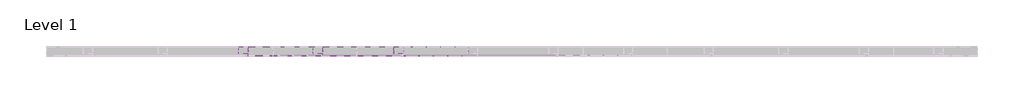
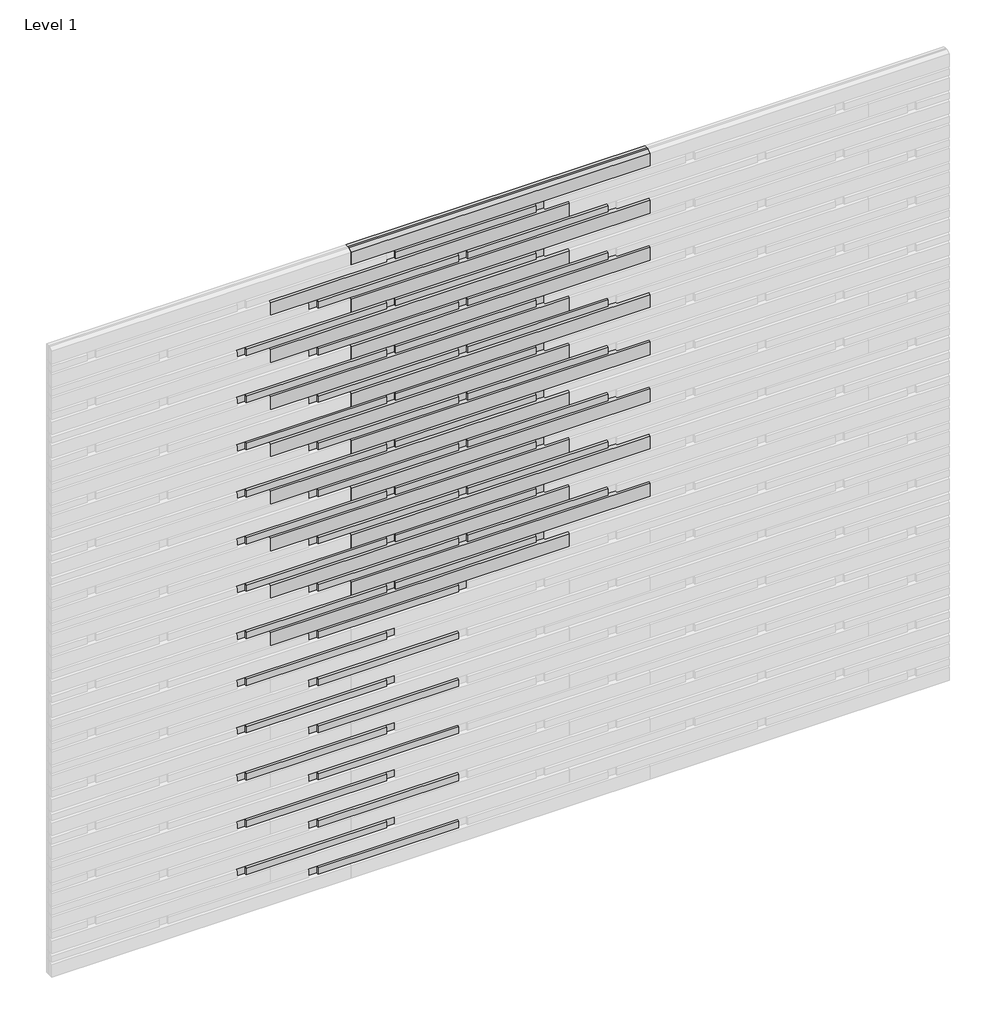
# One storey, part 2 of 4: 109 proxies.
"""IFC4 building model written with IfcOpenShell, lengths in millimetres."""

from ifc_helpers import new_model, si_unit, origin, place, context, project, spatial, transform, mapped, element, save
from components import specialty_equipment_50deff0f, specialty_equipment_1c03680a, specialty_equipment_1ede2179

model = new_model("IFC4")

# Units and contexts
model_context = context("Model", 3, world=origin())
ifc_project = project(units=[si_unit("LENGTHUNIT", "METRE", prefix="MILLI")], contexts=[model_context])

# Site, building, storey
site = spatial("IfcSite", under=ifc_project)
building = spatial("IfcBuilding", under=site)
storey = spatial("IfcBuildingStorey", under=building, Name="Level 1", Elevation=0.0)

# Proxies
placement = place(None, origin())
specialty_equipment_shape = specialty_equipment_50deff0f(model_context)
element("IfcBuildingElementProxy", 1, Name="Spinneybeck_ARO Plank 7 : A - 5’-6”  x 3 1/2” x 1 1/4”", ObjectType="Spinneybeck_ARO Plank 7 : A - 5’-6”  x 3 1/2” x 1 1/4”", at=placement, inside=storey, context=model_context, shape_type="MappedRepresentation", body=[
    mapped(specialty_equipment_shape, transform((-3533.3177571, 2593.3070483, 3755.55), x_axis=(1.0, 0.0, 0.0), y_axis=(0.0, 0.0, 1.0), z_axis=(0.0, -1.0, 0.0))),
])
element("IfcBuildingElementProxy", 2, Name="Spinneybeck_ARO Plank 7 : A - 5’-6”  x 3 1/2” x 1 1/4”", ObjectType="Spinneybeck_ARO Plank 7 : A - 5’-6”  x 3 1/2” x 1 1/4”", at=placement, inside=storey, context=model_context, shape_type="MappedRepresentation", body=[
    mapped(specialty_equipment_shape, transform((-3985.8025517, 2593.3070483, 3615.85), x_axis=(1.0, 0.0, 0.0), y_axis=(0.0, 0.0, 1.0), z_axis=(0.0, -1.0, 0.0))),
])
element("IfcBuildingElementProxy", 3, Name="Spinneybeck_ARO Plank 7 : A - 5’-6”  x 3 1/2” x 1 1/4”", ObjectType="Spinneybeck_ARO Plank 7 : A - 5’-6”  x 3 1/2” x 1 1/4”", at=placement, inside=storey, context=model_context, shape_type="MappedRepresentation", body=[
    mapped(specialty_equipment_shape, transform((-3533.3177571, 2593.3070483, 3476.15), x_axis=(1.0, 0.0, 0.0), y_axis=(0.0, 0.0, 1.0), z_axis=(0.0, -1.0, 0.0))),
])
element("IfcBuildingElementProxy", 4, Name="Spinneybeck_ARO Plank 7 : A - 5’-6”  x 3 1/2” x 1 1/4”", ObjectType="Spinneybeck_ARO Plank 7 : A - 5’-6”  x 3 1/2” x 1 1/4”", at=placement, inside=storey, context=model_context, shape_type="MappedRepresentation", body=[
    mapped(specialty_equipment_shape, transform((-3985.8025517, 2593.3070483, 3336.45), x_axis=(1.0, 0.0, 0.0), y_axis=(0.0, 0.0, 1.0), z_axis=(0.0, -1.0, 0.0))),
])
element("IfcBuildingElementProxy", 5, Name="Spinneybeck_ARO Plank 7 : A - 5’-6”  x 3 1/2” x 1 1/4”", ObjectType="Spinneybeck_ARO Plank 7 : A - 5’-6”  x 3 1/2” x 1 1/4”", at=placement, inside=storey, context=model_context, shape_type="MappedRepresentation", body=[
    mapped(specialty_equipment_shape, transform((-3533.3177571, 2593.3070483, 3196.75), x_axis=(1.0, 0.0, 0.0), y_axis=(0.0, 0.0, 1.0), z_axis=(0.0, -1.0, 0.0))),
])
element("IfcBuildingElementProxy", 6, Name="Spinneybeck_ARO Plank 7 : A - 5’-6”  x 3 1/2” x 1 1/4”", ObjectType="Spinneybeck_ARO Plank 7 : A - 5’-6”  x 3 1/2” x 1 1/4”", at=placement, inside=storey, context=model_context, shape_type="MappedRepresentation", body=[
    mapped(specialty_equipment_shape, transform((-3985.8025517, 2593.3070483, 3057.05), x_axis=(1.0, 0.0, 0.0), y_axis=(0.0, 0.0, 1.0), z_axis=(0.0, -1.0, 0.0))),
])
element("IfcBuildingElementProxy", 7, Name="Spinneybeck_ARO Plank 7 : A - 5’-6”  x 3 1/2” x 1 1/4”", ObjectType="Spinneybeck_ARO Plank 7 : A - 5’-6”  x 3 1/2” x 1 1/4”", at=placement, inside=storey, context=model_context, shape_type="MappedRepresentation", body=[
    mapped(specialty_equipment_shape, transform((-3533.3177571, 2593.3070483, 2917.35), x_axis=(1.0, 0.0, 0.0), y_axis=(0.0, 0.0, 1.0), z_axis=(0.0, -1.0, 0.0))),
])
element("IfcBuildingElementProxy", 8, Name="Spinneybeck_ARO Plank 7 : A - 5’-6”  x 3 1/2” x 1 1/4”", ObjectType="Spinneybeck_ARO Plank 7 : A - 5’-6”  x 3 1/2” x 1 1/4”", at=placement, inside=storey, context=model_context, shape_type="MappedRepresentation", body=[
    mapped(specialty_equipment_shape, transform((-3985.8025517, 2593.3070483, 2777.65), x_axis=(1.0, 0.0, 0.0), y_axis=(0.0, 0.0, 1.0), z_axis=(0.0, -1.0, 0.0))),
])
element("IfcBuildingElementProxy", 9, Name="Spinneybeck_ARO Plank 7 : A - 5’-6”  x 3 1/2” x 1 1/4”", ObjectType="Spinneybeck_ARO Plank 7 : A - 5’-6”  x 3 1/2” x 1 1/4”", at=placement, inside=storey, context=model_context, shape_type="MappedRepresentation", body=[
    mapped(specialty_equipment_shape, transform((-3533.3177571, 2593.3070483, 2637.95), x_axis=(1.0, 0.0, 0.0), y_axis=(0.0, 0.0, 1.0), z_axis=(0.0, -1.0, 0.0))),
])
element("IfcBuildingElementProxy", 10, Name="Spinneybeck_ARO Plank 7 : A - 5’-6”  x 3 1/2” x 1 1/4”", ObjectType="Spinneybeck_ARO Plank 7 : A - 5’-6”  x 3 1/2” x 1 1/4”", at=placement, inside=storey, context=model_context, shape_type="MappedRepresentation", body=[
    mapped(specialty_equipment_shape, transform((-3985.8025517, 2593.3070483, 2498.25), x_axis=(1.0, 0.0, 0.0), y_axis=(0.0, 0.0, 1.0), z_axis=(0.0, -1.0, 0.0))),
])
element("IfcBuildingElementProxy", 11, Name="Spinneybeck_ARO Plank 7 : A - 5’-6”  x 3 1/2” x 1 1/4”", ObjectType="Spinneybeck_ARO Plank 7 : A - 5’-6”  x 3 1/2” x 1 1/4”", at=placement, inside=storey, context=model_context, shape_type="MappedRepresentation", body=[
    mapped(specialty_equipment_shape, transform((-3533.3177571, 2593.3070483, 2358.55), x_axis=(1.0, 0.0, 0.0), y_axis=(0.0, 0.0, 1.0), z_axis=(0.0, -1.0, 0.0))),
])
element("IfcBuildingElementProxy", 12, Name="Spinneybeck_ARO Plank 7 : A - 5’-6”  x 3 1/2” x 1 1/4”", ObjectType="Spinneybeck_ARO Plank 7 : A - 5’-6”  x 3 1/2” x 1 1/4”", at=placement, inside=storey, context=model_context, shape_type="MappedRepresentation", body=[
    mapped(specialty_equipment_shape, transform((-3985.8025517, 2593.3070483, 2218.85), x_axis=(1.0, 0.0, 0.0), y_axis=(0.0, 0.0, 1.0), z_axis=(0.0, -1.0, 0.0))),
])
element("IfcBuildingElementProxy", 13, Name="Spinneybeck_ARO Plank 7 : A - 5’-6”  x 3 1/2” x 1 1/4”", ObjectType="Spinneybeck_ARO Plank 7 : A - 5’-6”  x 3 1/2” x 1 1/4”", at=placement, inside=storey, context=model_context, shape_type="MappedRepresentation", body=[
    mapped(specialty_equipment_shape, transform((-3533.3177571, 2593.3070483, 2079.15), x_axis=(1.0, 0.0, 0.0), y_axis=(0.0, 0.0, 1.0), z_axis=(0.0, -1.0, 0.0))),
])
element("IfcBuildingElementProxy", 14, Name="Spinneybeck_ARO Plank 7 : A - 5’-6”  x 3 1/2” x 1 1/4”", ObjectType="Spinneybeck_ARO Plank 7 : A - 5’-6”  x 3 1/2” x 1 1/4”", at=placement, inside=storey, context=model_context, shape_type="MappedRepresentation", body=[
    mapped(specialty_equipment_shape, transform((-3985.8025517, 2593.3070483, 1939.45), x_axis=(1.0, 0.0, 0.0), y_axis=(0.0, 0.0, 1.0), z_axis=(0.0, -1.0, 0.0))),
])
element("IfcBuildingElementProxy", 15, Name="Spinneybeck_ARO Plank 7 : A - 5’-6”  x 3 1/2” x 1 1/4”", ObjectType="Spinneybeck_ARO Plank 7 : A - 5’-6”  x 3 1/2” x 1 1/4”", at=placement, inside=storey, context=model_context, shape_type="MappedRepresentation", body=[
    mapped(specialty_equipment_shape, transform((-3533.3177571, 2593.3070483, 1799.75), x_axis=(1.0, 0.0, 0.0), y_axis=(0.0, 0.0, 1.0), z_axis=(0.0, -1.0, 0.0))),
])
element("IfcBuildingElementProxy", 16, Name="Spinneybeck_ARO Plank 7 : A - 5’-6”  x 3 1/2” x 1 1/4”", ObjectType="Spinneybeck_ARO Plank 7 : A - 5’-6”  x 3 1/2” x 1 1/4”", at=placement, inside=storey, context=model_context, shape_type="MappedRepresentation", body=[
    mapped(specialty_equipment_shape, transform((-3985.8025517, 2593.3070483, 1660.05), x_axis=(1.0, 0.0, 0.0), y_axis=(0.0, 0.0, 1.0), z_axis=(0.0, -1.0, 0.0))),
])
specialty_equipment_2_shape = specialty_equipment_1c03680a(model_context)
element("IfcBuildingElementProxy", 17, Name="Spinneybeck_ARO Plank 7 : B - 2’-7” x 2” x 1 1/4”", ObjectType="Spinneybeck_ARO Plank 7 : B - 2’-7” x 2” x 1 1/4”", at=placement, inside=storey, context=model_context, shape_type="MappedRepresentation", body=[
    mapped(specialty_equipment_2_shape, transform((-3727.6591593, 2593.3070483, 3685.7), x_axis=(1.0, 0.0, 0.0), y_axis=(0.0, 0.0, 1.0), z_axis=(0.0, -1.0, 0.0))),
])
element("IfcBuildingElementProxy", 18, Name="Spinneybeck_ARO Plank 7 : B - 2’-7” x 2” x 1 1/4”", ObjectType="Spinneybeck_ARO Plank 7 : B - 2’-7” x 2” x 1 1/4”", at=placement, inside=storey, context=model_context, shape_type="MappedRepresentation", body=[
    mapped(specialty_equipment_2_shape, transform((-4162.8252102, 2593.3070483, 3546.0), x_axis=(1.0, 0.0, 0.0), y_axis=(0.0, 0.0, 1.0), z_axis=(0.0, -1.0, 0.0))),
])
element("IfcBuildingElementProxy", 19, Name="Spinneybeck_ARO Plank 7 : B - 2’-7” x 2” x 1 1/4”", ObjectType="Spinneybeck_ARO Plank 7 : B - 2’-7” x 2” x 1 1/4”", at=placement, inside=storey, context=model_context, shape_type="MappedRepresentation", body=[
    mapped(specialty_equipment_2_shape, transform((-3324.6252102, 2593.3070483, 3546.0), x_axis=(1.0, 0.0, 0.0), y_axis=(0.0, 0.0, 1.0), z_axis=(0.0, -1.0, 0.0))),
])
element("IfcBuildingElementProxy", 20, Name="Spinneybeck_ARO Plank 7 : B - 2’-7” x 2” x 1 1/4”", ObjectType="Spinneybeck_ARO Plank 7 : B - 2’-7” x 2” x 1 1/4”", at=placement, inside=storey, context=model_context, shape_type="MappedRepresentation", body=[
    mapped(specialty_equipment_2_shape, transform((-4565.8591593, 2593.3070483, 3406.3), x_axis=(1.0, 0.0, 0.0), y_axis=(0.0, 0.0, 1.0), z_axis=(0.0, -1.0, 0.0))),
])
element("IfcBuildingElementProxy", 21, Name="Spinneybeck_ARO Plank 7 : B - 2’-7” x 2” x 1 1/4”", ObjectType="Spinneybeck_ARO Plank 7 : B - 2’-7” x 2” x 1 1/4”", at=placement, inside=storey, context=model_context, shape_type="MappedRepresentation", body=[
    mapped(specialty_equipment_2_shape, transform((-3727.6591593, 2593.3070483, 3406.3), x_axis=(1.0, 0.0, 0.0), y_axis=(0.0, 0.0, 1.0), z_axis=(0.0, -1.0, 0.0))),
])
element("IfcBuildingElementProxy", 22, Name="Spinneybeck_ARO Plank 7 : B - 2’-7” x 2” x 1 1/4”", ObjectType="Spinneybeck_ARO Plank 7 : B - 2’-7” x 2” x 1 1/4”", at=placement, inside=storey, context=model_context, shape_type="MappedRepresentation", body=[
    mapped(specialty_equipment_2_shape, transform((-4162.8252102, 2593.3070483, 3266.6), x_axis=(1.0, 0.0, 0.0), y_axis=(0.0, 0.0, 1.0), z_axis=(0.0, -1.0, 0.0))),
])
element("IfcBuildingElementProxy", 23, Name="Spinneybeck_ARO Plank 7 : B - 2’-7” x 2” x 1 1/4”", ObjectType="Spinneybeck_ARO Plank 7 : B - 2’-7” x 2” x 1 1/4”", at=placement, inside=storey, context=model_context, shape_type="MappedRepresentation", body=[
    mapped(specialty_equipment_2_shape, transform((-3324.6252102, 2593.3070483, 3266.6), x_axis=(1.0, 0.0, 0.0), y_axis=(0.0, 0.0, 1.0), z_axis=(0.0, -1.0, 0.0))),
])
element("IfcBuildingElementProxy", 24, Name="Spinneybeck_ARO Plank 7 : B - 2’-7” x 2” x 1 1/4”", ObjectType="Spinneybeck_ARO Plank 7 : B - 2’-7” x 2” x 1 1/4”", at=placement, inside=storey, context=model_context, shape_type="MappedRepresentation", body=[
    mapped(specialty_equipment_2_shape, transform((-4565.8591593, 2593.3070483, 3126.9), x_axis=(1.0, 0.0, 0.0), y_axis=(0.0, 0.0, 1.0), z_axis=(0.0, -1.0, 0.0))),
])
element("IfcBuildingElementProxy", 25, Name="Spinneybeck_ARO Plank 7 : B - 2’-7” x 2” x 1 1/4”", ObjectType="Spinneybeck_ARO Plank 7 : B - 2’-7” x 2” x 1 1/4”", at=placement, inside=storey, context=model_context, shape_type="MappedRepresentation", body=[
    mapped(specialty_equipment_2_shape, transform((-3727.6591593, 2593.3070483, 3126.9), x_axis=(1.0, 0.0, 0.0), y_axis=(0.0, 0.0, 1.0), z_axis=(0.0, -1.0, 0.0))),
])
element("IfcBuildingElementProxy", 26, Name="Spinneybeck_ARO Plank 7 : B - 2’-7” x 2” x 1 1/4”", ObjectType="Spinneybeck_ARO Plank 7 : B - 2’-7” x 2” x 1 1/4”", at=placement, inside=storey, context=model_context, shape_type="MappedRepresentation", body=[
    mapped(specialty_equipment_2_shape, transform((-4162.8252102, 2593.3070483, 2987.2), x_axis=(1.0, 0.0, 0.0), y_axis=(0.0, 0.0, 1.0), z_axis=(0.0, -1.0, 0.0))),
])
element("IfcBuildingElementProxy", 27, Name="Spinneybeck_ARO Plank 7 : B - 2’-7” x 2” x 1 1/4”", ObjectType="Spinneybeck_ARO Plank 7 : B - 2’-7” x 2” x 1 1/4”", at=placement, inside=storey, context=model_context, shape_type="MappedRepresentation", body=[
    mapped(specialty_equipment_2_shape, transform((-3324.6252102, 2593.3070483, 2987.2), x_axis=(1.0, 0.0, 0.0), y_axis=(0.0, 0.0, 1.0), z_axis=(0.0, -1.0, 0.0))),
])
element("IfcBuildingElementProxy", 28, Name="Spinneybeck_ARO Plank 7 : B - 2’-7” x 2” x 1 1/4”", ObjectType="Spinneybeck_ARO Plank 7 : B - 2’-7” x 2” x 1 1/4”", at=placement, inside=storey, context=model_context, shape_type="MappedRepresentation", body=[
    mapped(specialty_equipment_2_shape, transform((-4565.8591593, 2593.3070483, 2847.5), x_axis=(1.0, 0.0, 0.0), y_axis=(0.0, 0.0, 1.0), z_axis=(0.0, -1.0, 0.0))),
])
element("IfcBuildingElementProxy", 29, Name="Spinneybeck_ARO Plank 7 : B - 2’-7” x 2” x 1 1/4”", ObjectType="Spinneybeck_ARO Plank 7 : B - 2’-7” x 2” x 1 1/4”", at=placement, inside=storey, context=model_context, shape_type="MappedRepresentation", body=[
    mapped(specialty_equipment_2_shape, transform((-3727.6591593, 2593.3070483, 2847.5), x_axis=(1.0, 0.0, 0.0), y_axis=(0.0, 0.0, 1.0), z_axis=(0.0, -1.0, 0.0))),
])
element("IfcBuildingElementProxy", 30, Name="Spinneybeck_ARO Plank 7 : B - 2’-7” x 2” x 1 1/4”", ObjectType="Spinneybeck_ARO Plank 7 : B - 2’-7” x 2” x 1 1/4”", at=placement, inside=storey, context=model_context, shape_type="MappedRepresentation", body=[
    mapped(specialty_equipment_2_shape, transform((-4162.8252102, 2593.3070483, 2707.8), x_axis=(1.0, 0.0, 0.0), y_axis=(0.0, 0.0, 1.0), z_axis=(0.0, -1.0, 0.0))),
])
element("IfcBuildingElementProxy", 31, Name="Spinneybeck_ARO Plank 7 : B - 2’-7” x 2” x 1 1/4”", ObjectType="Spinneybeck_ARO Plank 7 : B - 2’-7” x 2” x 1 1/4”", at=placement, inside=storey, context=model_context, shape_type="MappedRepresentation", body=[
    mapped(specialty_equipment_2_shape, transform((-3324.6252102, 2593.3070483, 2707.8), x_axis=(1.0, 0.0, 0.0), y_axis=(0.0, 0.0, 1.0), z_axis=(0.0, -1.0, 0.0))),
])
element("IfcBuildingElementProxy", 32, Name="Spinneybeck_ARO Plank 7 : B - 2’-7” x 2” x 1 1/4”", ObjectType="Spinneybeck_ARO Plank 7 : B - 2’-7” x 2” x 1 1/4”", at=placement, inside=storey, context=model_context, shape_type="MappedRepresentation", body=[
    mapped(specialty_equipment_2_shape, transform((-4565.8591593, 2593.3070483, 2568.1), x_axis=(1.0, 0.0, 0.0), y_axis=(0.0, 0.0, 1.0), z_axis=(0.0, -1.0, 0.0))),
])
element("IfcBuildingElementProxy", 33, Name="Spinneybeck_ARO Plank 7 : B - 2’-7” x 2” x 1 1/4”", ObjectType="Spinneybeck_ARO Plank 7 : B - 2’-7” x 2” x 1 1/4”", at=placement, inside=storey, context=model_context, shape_type="MappedRepresentation", body=[
    mapped(specialty_equipment_2_shape, transform((-3727.6591593, 2593.3070483, 2568.1), x_axis=(1.0, 0.0, 0.0), y_axis=(0.0, 0.0, 1.0), z_axis=(0.0, -1.0, 0.0))),
])
element("IfcBuildingElementProxy", 34, Name="Spinneybeck_ARO Plank 7 : B - 2’-7” x 2” x 1 1/4”", ObjectType="Spinneybeck_ARO Plank 7 : B - 2’-7” x 2” x 1 1/4”", at=placement, inside=storey, context=model_context, shape_type="MappedRepresentation", body=[
    mapped(specialty_equipment_2_shape, transform((-4162.8252102, 2593.3070483, 2428.4), x_axis=(1.0, 0.0, 0.0), y_axis=(0.0, 0.0, 1.0), z_axis=(0.0, -1.0, 0.0))),
])
element("IfcBuildingElementProxy", 35, Name="Spinneybeck_ARO Plank 7 : B - 2’-7” x 2” x 1 1/4”", ObjectType="Spinneybeck_ARO Plank 7 : B - 2’-7” x 2” x 1 1/4”", at=placement, inside=storey, context=model_context, shape_type="MappedRepresentation", body=[
    mapped(specialty_equipment_2_shape, transform((-3324.6252102, 2593.3070483, 2428.4), x_axis=(1.0, 0.0, 0.0), y_axis=(0.0, 0.0, 1.0), z_axis=(0.0, -1.0, 0.0))),
])
element("IfcBuildingElementProxy", 36, Name="Spinneybeck_ARO Plank 7 : B - 2’-7” x 2” x 1 1/4”", ObjectType="Spinneybeck_ARO Plank 7 : B - 2’-7” x 2” x 1 1/4”", at=placement, inside=storey, context=model_context, shape_type="MappedRepresentation", body=[
    mapped(specialty_equipment_2_shape, transform((-4565.8591593, 2593.3070483, 2288.7), x_axis=(1.0, 0.0, 0.0), y_axis=(0.0, 0.0, 1.0), z_axis=(0.0, -1.0, 0.0))),
])
element("IfcBuildingElementProxy", 37, Name="Spinneybeck_ARO Plank 7 : B - 2’-7” x 2” x 1 1/4”", ObjectType="Spinneybeck_ARO Plank 7 : B - 2’-7” x 2” x 1 1/4”", at=placement, inside=storey, context=model_context, shape_type="MappedRepresentation", body=[
    mapped(specialty_equipment_2_shape, transform((-3727.6591593, 2593.3070483, 2288.7), x_axis=(1.0, 0.0, 0.0), y_axis=(0.0, 0.0, 1.0), z_axis=(0.0, -1.0, 0.0))),
])
element("IfcBuildingElementProxy", 38, Name="Spinneybeck_ARO Plank 7 : B - 2’-7” x 2” x 1 1/4”", ObjectType="Spinneybeck_ARO Plank 7 : B - 2’-7” x 2” x 1 1/4”", at=placement, inside=storey, context=model_context, shape_type="MappedRepresentation", body=[
    mapped(specialty_equipment_2_shape, transform((-4162.8252102, 2593.3070483, 2149.0), x_axis=(1.0, 0.0, 0.0), y_axis=(0.0, 0.0, 1.0), z_axis=(0.0, -1.0, 0.0))),
])
element("IfcBuildingElementProxy", 39, Name="Spinneybeck_ARO Plank 7 : B - 2’-7” x 2” x 1 1/4”", ObjectType="Spinneybeck_ARO Plank 7 : B - 2’-7” x 2” x 1 1/4”", at=placement, inside=storey, context=model_context, shape_type="MappedRepresentation", body=[
    mapped(specialty_equipment_2_shape, transform((-3324.6252102, 2593.3070483, 2149.0), x_axis=(1.0, 0.0, 0.0), y_axis=(0.0, 0.0, 1.0), z_axis=(0.0, -1.0, 0.0))),
])
element("IfcBuildingElementProxy", 40, Name="Spinneybeck_ARO Plank 7 : B - 2’-7” x 2” x 1 1/4”", ObjectType="Spinneybeck_ARO Plank 7 : B - 2’-7” x 2” x 1 1/4”", at=placement, inside=storey, context=model_context, shape_type="MappedRepresentation", body=[
    mapped(specialty_equipment_2_shape, transform((-4565.8591593, 2593.3070483, 2009.3), x_axis=(1.0, 0.0, 0.0), y_axis=(0.0, 0.0, 1.0), z_axis=(0.0, -1.0, 0.0))),
])
element("IfcBuildingElementProxy", 41, Name="Spinneybeck_ARO Plank 7 : B - 2’-7” x 2” x 1 1/4”", ObjectType="Spinneybeck_ARO Plank 7 : B - 2’-7” x 2” x 1 1/4”", at=placement, inside=storey, context=model_context, shape_type="MappedRepresentation", body=[
    mapped(specialty_equipment_2_shape, transform((-3727.6591593, 2593.3070483, 2009.3), x_axis=(1.0, 0.0, 0.0), y_axis=(0.0, 0.0, 1.0), z_axis=(0.0, -1.0, 0.0))),
])
element("IfcBuildingElementProxy", 42, Name="Spinneybeck_ARO Plank 7 : B - 2’-7” x 2” x 1 1/4”", ObjectType="Spinneybeck_ARO Plank 7 : B - 2’-7” x 2” x 1 1/4”", at=placement, inside=storey, context=model_context, shape_type="MappedRepresentation", body=[
    mapped(specialty_equipment_2_shape, transform((-4162.8252102, 2593.3070483, 1869.6), x_axis=(1.0, 0.0, 0.0), y_axis=(0.0, 0.0, 1.0), z_axis=(0.0, -1.0, 0.0))),
])
element("IfcBuildingElementProxy", 43, Name="Spinneybeck_ARO Plank 7 : B - 2’-7” x 2” x 1 1/4”", ObjectType="Spinneybeck_ARO Plank 7 : B - 2’-7” x 2” x 1 1/4”", at=placement, inside=storey, context=model_context, shape_type="MappedRepresentation", body=[
    mapped(specialty_equipment_2_shape, transform((-3324.6252102, 2593.3070483, 1869.6), x_axis=(1.0, 0.0, 0.0), y_axis=(0.0, 0.0, 1.0), z_axis=(0.0, -1.0, 0.0))),
])
element("IfcBuildingElementProxy", 44, Name="Spinneybeck_ARO Plank 7 : B - 2’-7” x 2” x 1 1/4”", ObjectType="Spinneybeck_ARO Plank 7 : B - 2’-7” x 2” x 1 1/4”", at=placement, inside=storey, context=model_context, shape_type="MappedRepresentation", body=[
    mapped(specialty_equipment_2_shape, transform((-4565.8591593, 2593.3070483, 1729.9), x_axis=(1.0, 0.0, 0.0), y_axis=(0.0, 0.0, 1.0), z_axis=(0.0, -1.0, 0.0))),
])
element("IfcBuildingElementProxy", 45, Name="Spinneybeck_ARO Plank 7 : B - 2’-7” x 2” x 1 1/4”", ObjectType="Spinneybeck_ARO Plank 7 : B - 2’-7” x 2” x 1 1/4”", at=placement, inside=storey, context=model_context, shape_type="MappedRepresentation", body=[
    mapped(specialty_equipment_2_shape, transform((-3727.6591593, 2593.3070483, 1729.9), x_axis=(1.0, 0.0, 0.0), y_axis=(0.0, 0.0, 1.0), z_axis=(0.0, -1.0, 0.0))),
])
element("IfcBuildingElementProxy", 46, Name="Spinneybeck_ARO Plank 7 : B - 2’-7” x 2” x 1 1/4”", ObjectType="Spinneybeck_ARO Plank 7 : B - 2’-7” x 2” x 1 1/4”", at=placement, inside=storey, context=model_context, shape_type="MappedRepresentation", body=[
    mapped(specialty_equipment_2_shape, transform((-4162.8252102, 2593.3070483, 1590.2), x_axis=(1.0, 0.0, 0.0), y_axis=(0.0, 0.0, 1.0), z_axis=(0.0, -1.0, 0.0))),
])
element("IfcBuildingElementProxy", 47, Name="Spinneybeck_ARO Plank 7 : B - 2’-7” x 2” x 1 1/4”", ObjectType="Spinneybeck_ARO Plank 7 : B - 2’-7” x 2” x 1 1/4”", at=placement, inside=storey, context=model_context, shape_type="MappedRepresentation", body=[
    mapped(specialty_equipment_2_shape, transform((-4565.8591593, 2593.3070483, 1450.5), x_axis=(1.0, 0.0, 0.0), y_axis=(0.0, 0.0, 1.0), z_axis=(0.0, -1.0, 0.0))),
])
element("IfcBuildingElementProxy", 48, Name="Spinneybeck_ARO Plank 7 : B - 2’-7” x 2” x 1 1/4”", ObjectType="Spinneybeck_ARO Plank 7 : B - 2’-7” x 2” x 1 1/4”", at=placement, inside=storey, context=model_context, shape_type="MappedRepresentation", body=[
    mapped(specialty_equipment_2_shape, transform((-4162.8252102, 2593.3070483, 1310.8), x_axis=(1.0, 0.0, 0.0), y_axis=(0.0, 0.0, 1.0), z_axis=(0.0, -1.0, 0.0))),
])
element("IfcBuildingElementProxy", 49, Name="Spinneybeck_ARO Plank 7 : B - 2’-7” x 2” x 1 1/4”", ObjectType="Spinneybeck_ARO Plank 7 : B - 2’-7” x 2” x 1 1/4”", at=placement, inside=storey, context=model_context, shape_type="MappedRepresentation", body=[
    mapped(specialty_equipment_2_shape, transform((-4565.8591593, 2593.3070483, 1171.1), x_axis=(1.0, 0.0, 0.0), y_axis=(0.0, 0.0, 1.0), z_axis=(0.0, -1.0, 0.0))),
])
element("IfcBuildingElementProxy", 50, Name="Spinneybeck_ARO Plank 7 : B - 2’-7” x 2” x 1 1/4”", ObjectType="Spinneybeck_ARO Plank 7 : B - 2’-7” x 2” x 1 1/4”", at=placement, inside=storey, context=model_context, shape_type="MappedRepresentation", body=[
    mapped(specialty_equipment_2_shape, transform((-4162.8252102, 2593.3070483, 1031.4), x_axis=(1.0, 0.0, 0.0), y_axis=(0.0, 0.0, 1.0), z_axis=(0.0, -1.0, 0.0))),
])
element("IfcBuildingElementProxy", 51, Name="Spinneybeck_ARO Plank 7 : B - 2’-7” x 2” x 1 1/4”", ObjectType="Spinneybeck_ARO Plank 7 : B - 2’-7” x 2” x 1 1/4”", at=placement, inside=storey, context=model_context, shape_type="MappedRepresentation", body=[
    mapped(specialty_equipment_2_shape, transform((-4565.8591593, 2593.3070483, 891.7), x_axis=(1.0, 0.0, 0.0), y_axis=(0.0, 0.0, 1.0), z_axis=(0.0, -1.0, 0.0))),
])
element("IfcBuildingElementProxy", 52, Name="Spinneybeck_ARO Plank 7 : B - 2’-7” x 2” x 1 1/4”", ObjectType="Spinneybeck_ARO Plank 7 : B - 2’-7” x 2” x 1 1/4”", at=placement, inside=storey, context=model_context, shape_type="MappedRepresentation", body=[
    mapped(specialty_equipment_2_shape, transform((-4162.8252102, 2593.3070483, 752.0), x_axis=(1.0, 0.0, 0.0), y_axis=(0.0, 0.0, 1.0), z_axis=(0.0, -1.0, 0.0))),
])
element("IfcBuildingElementProxy", 53, Name="Spinneybeck_ARO Plank 7 : B - 2’-7” x 2” x 1 1/4”", ObjectType="Spinneybeck_ARO Plank 7 : B - 2’-7” x 2” x 1 1/4”", at=placement, inside=storey, context=model_context, shape_type="MappedRepresentation", body=[
    mapped(specialty_equipment_2_shape, transform((-4565.8591593, 2593.3070483, 612.3), x_axis=(1.0, 0.0, 0.0), y_axis=(0.0, 0.0, 1.0), z_axis=(0.0, -1.0, 0.0))),
])
element("IfcBuildingElementProxy", 54, Name="Spinneybeck_ARO Plank 7 : B - 2’-7” x 2” x 1 1/4”", ObjectType="Spinneybeck_ARO Plank 7 : B - 2’-7” x 2” x 1 1/4”", at=placement, inside=storey, context=model_context, shape_type="MappedRepresentation", body=[
    mapped(specialty_equipment_2_shape, transform((-4162.8252102, 2593.3070483, 472.6), x_axis=(1.0, 0.0, 0.0), y_axis=(0.0, 0.0, 1.0), z_axis=(0.0, -1.0, 0.0))),
])
element("IfcBuildingElementProxy", 55, Name="Spinneybeck_ARO Plank 7 : B - 2’-7” x 2” x 1 1/4”", ObjectType="Spinneybeck_ARO Plank 7 : B - 2’-7” x 2” x 1 1/4”", at=placement, inside=storey, context=model_context, shape_type="MappedRepresentation", body=[
    mapped(specialty_equipment_2_shape, transform((-4565.8591593, 2593.3070483, 332.9), x_axis=(1.0, 0.0, 0.0), y_axis=(0.0, 0.0, 1.0), z_axis=(0.0, -1.0, 0.0))),
])
element("IfcBuildingElementProxy", 56, Name="Spinneybeck_ARO Plank 7 : B - 2’-7” x 2” x 1 1/4”", ObjectType="Spinneybeck_ARO Plank 7 : B - 2’-7” x 2” x 1 1/4”", at=placement, inside=storey, context=model_context, shape_type="MappedRepresentation", body=[
    mapped(specialty_equipment_2_shape, transform((-4162.8252102, 2593.3070483, 193.2), x_axis=(1.0, 0.0, 0.0), y_axis=(0.0, 0.0, 1.0), z_axis=(0.0, -1.0, 0.0))),
])
specialty_equipment_3_shape = specialty_equipment_1ede2179(model_context)
element("IfcBuildingElementProxy", 57, Name="Spinneybeck_ARO Plank 7 : C - 2” x 2” x 3/4”", ObjectType="Spinneybeck_ARO Plank 7 : C - 2” x 2” x 3/4”", at=placement, inside=storey, context=model_context, shape_type="MappedRepresentation", body=[
    mapped(specialty_equipment_3_shape, transform((-3308.5591593, 2593.3070483, 3685.7), x_axis=(1.0, 0.0, 0.0), y_axis=(0.0, 0.0, 1.0), z_axis=(0.0, -1.0, 0.0))),
])
element("IfcBuildingElementProxy", 58, Name="Spinneybeck_ARO Plank 7 : C - 2” x 2” x 3/4”", ObjectType="Spinneybeck_ARO Plank 7 : C - 2” x 2” x 3/4”", at=placement, inside=storey, context=model_context, shape_type="MappedRepresentation", body=[
    mapped(specialty_equipment_3_shape, transform((-4581.9252102, 2593.3070483, 3546.0), x_axis=(1.0, 0.0, 0.0), y_axis=(0.0, 0.0, 1.0), z_axis=(0.0, -1.0, 0.0))),
])
element("IfcBuildingElementProxy", 59, Name="Spinneybeck_ARO Plank 7 : C - 2” x 2” x 3/4”", ObjectType="Spinneybeck_ARO Plank 7 : C - 2” x 2” x 3/4”", at=placement, inside=storey, context=model_context, shape_type="MappedRepresentation", body=[
    mapped(specialty_equipment_3_shape, transform((-3743.7252102, 2593.3070483, 3546.0), x_axis=(1.0, 0.0, 0.0), y_axis=(0.0, 0.0, 1.0), z_axis=(0.0, -1.0, 0.0))),
])
element("IfcBuildingElementProxy", 60, Name="Spinneybeck_ARO Plank 7 : C - 2” x 2” x 3/4”", ObjectType="Spinneybeck_ARO Plank 7 : C - 2” x 2” x 3/4”", at=placement, inside=storey, context=model_context, shape_type="MappedRepresentation", body=[
    mapped(specialty_equipment_3_shape, transform((-4984.9591593, 2593.3070483, 3406.3), x_axis=(1.0, 0.0, 0.0), y_axis=(0.0, 0.0, 1.0), z_axis=(0.0, -1.0, 0.0))),
])
element("IfcBuildingElementProxy", 61, Name="Spinneybeck_ARO Plank 7 : C - 2” x 2” x 3/4”", ObjectType="Spinneybeck_ARO Plank 7 : C - 2” x 2” x 3/4”", at=placement, inside=storey, context=model_context, shape_type="MappedRepresentation", body=[
    mapped(specialty_equipment_3_shape, transform((-4146.7591593, 2593.3070483, 3406.3), x_axis=(1.0, 0.0, 0.0), y_axis=(0.0, 0.0, 1.0), z_axis=(0.0, -1.0, 0.0))),
])
element("IfcBuildingElementProxy", 62, Name="Spinneybeck_ARO Plank 7 : C - 2” x 2” x 3/4”", ObjectType="Spinneybeck_ARO Plank 7 : C - 2” x 2” x 3/4”", at=placement, inside=storey, context=model_context, shape_type="MappedRepresentation", body=[
    mapped(specialty_equipment_3_shape, transform((-3308.5591593, 2593.3070483, 3406.3), x_axis=(1.0, 0.0, 0.0), y_axis=(0.0, 0.0, 1.0), z_axis=(0.0, -1.0, 0.0))),
])
element("IfcBuildingElementProxy", 63, Name="Spinneybeck_ARO Plank 7 : C - 2” x 2” x 3/4”", ObjectType="Spinneybeck_ARO Plank 7 : C - 2” x 2” x 3/4”", at=placement, inside=storey, context=model_context, shape_type="MappedRepresentation", body=[
    mapped(specialty_equipment_3_shape, transform((-4581.9252102, 2593.3070483, 3266.6), x_axis=(1.0, 0.0, 0.0), y_axis=(0.0, 0.0, 1.0), z_axis=(0.0, -1.0, 0.0))),
])
element("IfcBuildingElementProxy", 64, Name="Spinneybeck_ARO Plank 7 : C - 2” x 2” x 3/4”", ObjectType="Spinneybeck_ARO Plank 7 : C - 2” x 2” x 3/4”", at=placement, inside=storey, context=model_context, shape_type="MappedRepresentation", body=[
    mapped(specialty_equipment_3_shape, transform((-3743.7252102, 2593.3070483, 3266.6), x_axis=(1.0, 0.0, 0.0), y_axis=(0.0, 0.0, 1.0), z_axis=(0.0, -1.0, 0.0))),
])
element("IfcBuildingElementProxy", 65, Name="Spinneybeck_ARO Plank 7 : C - 2” x 2” x 3/4”", ObjectType="Spinneybeck_ARO Plank 7 : C - 2” x 2” x 3/4”", at=placement, inside=storey, context=model_context, shape_type="MappedRepresentation", body=[
    mapped(specialty_equipment_3_shape, transform((-4984.9591593, 2593.3070483, 3126.9), x_axis=(1.0, 0.0, 0.0), y_axis=(0.0, 0.0, 1.0), z_axis=(0.0, -1.0, 0.0))),
])
element("IfcBuildingElementProxy", 66, Name="Spinneybeck_ARO Plank 7 : C - 2” x 2” x 3/4”", ObjectType="Spinneybeck_ARO Plank 7 : C - 2” x 2” x 3/4”", at=placement, inside=storey, context=model_context, shape_type="MappedRepresentation", body=[
    mapped(specialty_equipment_3_shape, transform((-4146.7591593, 2593.3070483, 3126.9), x_axis=(1.0, 0.0, 0.0), y_axis=(0.0, 0.0, 1.0), z_axis=(0.0, -1.0, 0.0))),
])
element("IfcBuildingElementProxy", 67, Name="Spinneybeck_ARO Plank 7 : C - 2” x 2” x 3/4”", ObjectType="Spinneybeck_ARO Plank 7 : C - 2” x 2” x 3/4”", at=placement, inside=storey, context=model_context, shape_type="MappedRepresentation", body=[
    mapped(specialty_equipment_3_shape, transform((-3308.5591593, 2593.3070483, 3126.9), x_axis=(1.0, 0.0, 0.0), y_axis=(0.0, 0.0, 1.0), z_axis=(0.0, -1.0, 0.0))),
])
element("IfcBuildingElementProxy", 68, Name="Spinneybeck_ARO Plank 7 : C - 2” x 2” x 3/4”", ObjectType="Spinneybeck_ARO Plank 7 : C - 2” x 2” x 3/4”", at=placement, inside=storey, context=model_context, shape_type="MappedRepresentation", body=[
    mapped(specialty_equipment_3_shape, transform((-4581.9252102, 2593.3070483, 2987.2), x_axis=(1.0, 0.0, 0.0), y_axis=(0.0, 0.0, 1.0), z_axis=(0.0, -1.0, 0.0))),
])
element("IfcBuildingElementProxy", 69, Name="Spinneybeck_ARO Plank 7 : C - 2” x 2” x 3/4”", ObjectType="Spinneybeck_ARO Plank 7 : C - 2” x 2” x 3/4”", at=placement, inside=storey, context=model_context, shape_type="MappedRepresentation", body=[
    mapped(specialty_equipment_3_shape, transform((-3743.7252102, 2593.3070483, 2987.2), x_axis=(1.0, 0.0, 0.0), y_axis=(0.0, 0.0, 1.0), z_axis=(0.0, -1.0, 0.0))),
])
element("IfcBuildingElementProxy", 70, Name="Spinneybeck_ARO Plank 7 : C - 2” x 2” x 3/4”", ObjectType="Spinneybeck_ARO Plank 7 : C - 2” x 2” x 3/4”", at=placement, inside=storey, context=model_context, shape_type="MappedRepresentation", body=[
    mapped(specialty_equipment_3_shape, transform((-4984.9591593, 2593.3070483, 2847.5), x_axis=(1.0, 0.0, 0.0), y_axis=(0.0, 0.0, 1.0), z_axis=(0.0, -1.0, 0.0))),
])
element("IfcBuildingElementProxy", 71, Name="Spinneybeck_ARO Plank 7 : C - 2” x 2” x 3/4”", ObjectType="Spinneybeck_ARO Plank 7 : C - 2” x 2” x 3/4”", at=placement, inside=storey, context=model_context, shape_type="MappedRepresentation", body=[
    mapped(specialty_equipment_3_shape, transform((-4146.7591593, 2593.3070483, 2847.5), x_axis=(1.0, 0.0, 0.0), y_axis=(0.0, 0.0, 1.0), z_axis=(0.0, -1.0, 0.0))),
])
element("IfcBuildingElementProxy", 72, Name="Spinneybeck_ARO Plank 7 : C - 2” x 2” x 3/4”", ObjectType="Spinneybeck_ARO Plank 7 : C - 2” x 2” x 3/4”", at=placement, inside=storey, context=model_context, shape_type="MappedRepresentation", body=[
    mapped(specialty_equipment_3_shape, transform((-3308.5591593, 2593.3070483, 2847.5), x_axis=(1.0, 0.0, 0.0), y_axis=(0.0, 0.0, 1.0), z_axis=(0.0, -1.0, 0.0))),
])
element("IfcBuildingElementProxy", 73, Name="Spinneybeck_ARO Plank 7 : C - 2” x 2” x 3/4”", ObjectType="Spinneybeck_ARO Plank 7 : C - 2” x 2” x 3/4”", at=placement, inside=storey, context=model_context, shape_type="MappedRepresentation", body=[
    mapped(specialty_equipment_3_shape, transform((-4581.9252102, 2593.3070483, 2707.8), x_axis=(1.0, 0.0, 0.0), y_axis=(0.0, 0.0, 1.0), z_axis=(0.0, -1.0, 0.0))),
])
element("IfcBuildingElementProxy", 74, Name="Spinneybeck_ARO Plank 7 : C - 2” x 2” x 3/4”", ObjectType="Spinneybeck_ARO Plank 7 : C - 2” x 2” x 3/4”", at=placement, inside=storey, context=model_context, shape_type="MappedRepresentation", body=[
    mapped(specialty_equipment_3_shape, transform((-3743.7252102, 2593.3070483, 2707.8), x_axis=(1.0, 0.0, 0.0), y_axis=(0.0, 0.0, 1.0), z_axis=(0.0, -1.0, 0.0))),
])
element("IfcBuildingElementProxy", 75, Name="Spinneybeck_ARO Plank 7 : C - 2” x 2” x 3/4”", ObjectType="Spinneybeck_ARO Plank 7 : C - 2” x 2” x 3/4”", at=placement, inside=storey, context=model_context, shape_type="MappedRepresentation", body=[
    mapped(specialty_equipment_3_shape, transform((-4984.9591593, 2593.3070483, 2568.1), x_axis=(1.0, 0.0, 0.0), y_axis=(0.0, 0.0, 1.0), z_axis=(0.0, -1.0, 0.0))),
])
element("IfcBuildingElementProxy", 76, Name="Spinneybeck_ARO Plank 7 : C - 2” x 2” x 3/4”", ObjectType="Spinneybeck_ARO Plank 7 : C - 2” x 2” x 3/4”", at=placement, inside=storey, context=model_context, shape_type="MappedRepresentation", body=[
    mapped(specialty_equipment_3_shape, transform((-4146.7591593, 2593.3070483, 2568.1), x_axis=(1.0, 0.0, 0.0), y_axis=(0.0, 0.0, 1.0), z_axis=(0.0, -1.0, 0.0))),
])
element("IfcBuildingElementProxy", 77, Name="Spinneybeck_ARO Plank 7 : C - 2” x 2” x 3/4”", ObjectType="Spinneybeck_ARO Plank 7 : C - 2” x 2” x 3/4”", at=placement, inside=storey, context=model_context, shape_type="MappedRepresentation", body=[
    mapped(specialty_equipment_3_shape, transform((-3308.5591593, 2593.3070483, 2568.1), x_axis=(1.0, 0.0, 0.0), y_axis=(0.0, 0.0, 1.0), z_axis=(0.0, -1.0, 0.0))),
])
element("IfcBuildingElementProxy", 78, Name="Spinneybeck_ARO Plank 7 : C - 2” x 2” x 3/4”", ObjectType="Spinneybeck_ARO Plank 7 : C - 2” x 2” x 3/4”", at=placement, inside=storey, context=model_context, shape_type="MappedRepresentation", body=[
    mapped(specialty_equipment_3_shape, transform((-4581.9252102, 2593.3070483, 2428.4), x_axis=(1.0, 0.0, 0.0), y_axis=(0.0, 0.0, 1.0), z_axis=(0.0, -1.0, 0.0))),
])
element("IfcBuildingElementProxy", 79, Name="Spinneybeck_ARO Plank 7 : C - 2” x 2” x 3/4”", ObjectType="Spinneybeck_ARO Plank 7 : C - 2” x 2” x 3/4”", at=placement, inside=storey, context=model_context, shape_type="MappedRepresentation", body=[
    mapped(specialty_equipment_3_shape, transform((-3743.7252102, 2593.3070483, 2428.4), x_axis=(1.0, 0.0, 0.0), y_axis=(0.0, 0.0, 1.0), z_axis=(0.0, -1.0, 0.0))),
])
element("IfcBuildingElementProxy", 80, Name="Spinneybeck_ARO Plank 7 : C - 2” x 2” x 3/4”", ObjectType="Spinneybeck_ARO Plank 7 : C - 2” x 2” x 3/4”", at=placement, inside=storey, context=model_context, shape_type="MappedRepresentation", body=[
    mapped(specialty_equipment_3_shape, transform((-4984.9591593, 2593.3070483, 2288.7), x_axis=(1.0, 0.0, 0.0), y_axis=(0.0, 0.0, 1.0), z_axis=(0.0, -1.0, 0.0))),
])
element("IfcBuildingElementProxy", 81, Name="Spinneybeck_ARO Plank 7 : C - 2” x 2” x 3/4”", ObjectType="Spinneybeck_ARO Plank 7 : C - 2” x 2” x 3/4”", at=placement, inside=storey, context=model_context, shape_type="MappedRepresentation", body=[
    mapped(specialty_equipment_3_shape, transform((-4146.7591593, 2593.3070483, 2288.7), x_axis=(1.0, 0.0, 0.0), y_axis=(0.0, 0.0, 1.0), z_axis=(0.0, -1.0, 0.0))),
])
element("IfcBuildingElementProxy", 82, Name="Spinneybeck_ARO Plank 7 : C - 2” x 2” x 3/4”", ObjectType="Spinneybeck_ARO Plank 7 : C - 2” x 2” x 3/4”", at=placement, inside=storey, context=model_context, shape_type="MappedRepresentation", body=[
    mapped(specialty_equipment_3_shape, transform((-3308.5591593, 2593.3070483, 2288.7), x_axis=(1.0, 0.0, 0.0), y_axis=(0.0, 0.0, 1.0), z_axis=(0.0, -1.0, 0.0))),
])
element("IfcBuildingElementProxy", 83, Name="Spinneybeck_ARO Plank 7 : C - 2” x 2” x 3/4”", ObjectType="Spinneybeck_ARO Plank 7 : C - 2” x 2” x 3/4”", at=placement, inside=storey, context=model_context, shape_type="MappedRepresentation", body=[
    mapped(specialty_equipment_3_shape, transform((-4581.9252102, 2593.3070483, 2149.0), x_axis=(1.0, 0.0, 0.0), y_axis=(0.0, 0.0, 1.0), z_axis=(0.0, -1.0, 0.0))),
])
element("IfcBuildingElementProxy", 84, Name="Spinneybeck_ARO Plank 7 : C - 2” x 2” x 3/4”", ObjectType="Spinneybeck_ARO Plank 7 : C - 2” x 2” x 3/4”", at=placement, inside=storey, context=model_context, shape_type="MappedRepresentation", body=[
    mapped(specialty_equipment_3_shape, transform((-3743.7252102, 2593.3070483, 2149.0), x_axis=(1.0, 0.0, 0.0), y_axis=(0.0, 0.0, 1.0), z_axis=(0.0, -1.0, 0.0))),
])
element("IfcBuildingElementProxy", 85, Name="Spinneybeck_ARO Plank 7 : C - 2” x 2” x 3/4”", ObjectType="Spinneybeck_ARO Plank 7 : C - 2” x 2” x 3/4”", at=placement, inside=storey, context=model_context, shape_type="MappedRepresentation", body=[
    mapped(specialty_equipment_3_shape, transform((-4984.9591593, 2593.3070483, 2009.3), x_axis=(1.0, 0.0, 0.0), y_axis=(0.0, 0.0, 1.0), z_axis=(0.0, -1.0, 0.0))),
])
element("IfcBuildingElementProxy", 86, Name="Spinneybeck_ARO Plank 7 : C - 2” x 2” x 3/4”", ObjectType="Spinneybeck_ARO Plank 7 : C - 2” x 2” x 3/4”", at=placement, inside=storey, context=model_context, shape_type="MappedRepresentation", body=[
    mapped(specialty_equipment_3_shape, transform((-4146.7591593, 2593.3070483, 2009.3), x_axis=(1.0, 0.0, 0.0), y_axis=(0.0, 0.0, 1.0), z_axis=(0.0, -1.0, 0.0))),
])
element("IfcBuildingElementProxy", 87, Name="Spinneybeck_ARO Plank 7 : C - 2” x 2” x 3/4”", ObjectType="Spinneybeck_ARO Plank 7 : C - 2” x 2” x 3/4”", at=placement, inside=storey, context=model_context, shape_type="MappedRepresentation", body=[
    mapped(specialty_equipment_3_shape, transform((-3308.5591593, 2593.3070483, 2009.3), x_axis=(1.0, 0.0, 0.0), y_axis=(0.0, 0.0, 1.0), z_axis=(0.0, -1.0, 0.0))),
])
element("IfcBuildingElementProxy", 88, Name="Spinneybeck_ARO Plank 7 : C - 2” x 2” x 3/4”", ObjectType="Spinneybeck_ARO Plank 7 : C - 2” x 2” x 3/4”", at=placement, inside=storey, context=model_context, shape_type="MappedRepresentation", body=[
    mapped(specialty_equipment_3_shape, transform((-4581.9252102, 2593.3070483, 1869.6), x_axis=(1.0, 0.0, 0.0), y_axis=(0.0, 0.0, 1.0), z_axis=(0.0, -1.0, 0.0))),
])
element("IfcBuildingElementProxy", 89, Name="Spinneybeck_ARO Plank 7 : C - 2” x 2” x 3/4”", ObjectType="Spinneybeck_ARO Plank 7 : C - 2” x 2” x 3/4”", at=placement, inside=storey, context=model_context, shape_type="MappedRepresentation", body=[
    mapped(specialty_equipment_3_shape, transform((-3743.7252102, 2593.3070483, 1869.6), x_axis=(1.0, 0.0, 0.0), y_axis=(0.0, 0.0, 1.0), z_axis=(0.0, -1.0, 0.0))),
])
element("IfcBuildingElementProxy", 90, Name="Spinneybeck_ARO Plank 7 : C - 2” x 2” x 3/4”", ObjectType="Spinneybeck_ARO Plank 7 : C - 2” x 2” x 3/4”", at=placement, inside=storey, context=model_context, shape_type="MappedRepresentation", body=[
    mapped(specialty_equipment_3_shape, transform((-4984.9591593, 2593.3070483, 1729.9), x_axis=(1.0, 0.0, 0.0), y_axis=(0.0, 0.0, 1.0), z_axis=(0.0, -1.0, 0.0))),
])
element("IfcBuildingElementProxy", 91, Name="Spinneybeck_ARO Plank 7 : C - 2” x 2” x 3/4”", ObjectType="Spinneybeck_ARO Plank 7 : C - 2” x 2” x 3/4”", at=placement, inside=storey, context=model_context, shape_type="MappedRepresentation", body=[
    mapped(specialty_equipment_3_shape, transform((-4146.7591593, 2593.3070483, 1729.9), x_axis=(1.0, 0.0, 0.0), y_axis=(0.0, 0.0, 1.0), z_axis=(0.0, -1.0, 0.0))),
])
element("IfcBuildingElementProxy", 92, Name="Spinneybeck_ARO Plank 7 : C - 2” x 2” x 3/4”", ObjectType="Spinneybeck_ARO Plank 7 : C - 2” x 2” x 3/4”", at=placement, inside=storey, context=model_context, shape_type="MappedRepresentation", body=[
    mapped(specialty_equipment_3_shape, transform((-3308.5591593, 2593.3070483, 1729.9), x_axis=(1.0, 0.0, 0.0), y_axis=(0.0, 0.0, 1.0), z_axis=(0.0, -1.0, 0.0))),
])
element("IfcBuildingElementProxy", 93, Name="Spinneybeck_ARO Plank 7 : C - 2” x 2” x 3/4”", ObjectType="Spinneybeck_ARO Plank 7 : C - 2” x 2” x 3/4”", at=placement, inside=storey, context=model_context, shape_type="MappedRepresentation", body=[
    mapped(specialty_equipment_3_shape, transform((-4581.9252102, 2593.3070483, 1590.2), x_axis=(1.0, 0.0, 0.0), y_axis=(0.0, 0.0, 1.0), z_axis=(0.0, -1.0, 0.0))),
])
element("IfcBuildingElementProxy", 94, Name="Spinneybeck_ARO Plank 7 : C - 2” x 2” x 3/4”", ObjectType="Spinneybeck_ARO Plank 7 : C - 2” x 2” x 3/4”", at=placement, inside=storey, context=model_context, shape_type="MappedRepresentation", body=[
    mapped(specialty_equipment_3_shape, transform((-3743.7252102, 2593.3070483, 1590.2), x_axis=(1.0, 0.0, 0.0), y_axis=(0.0, 0.0, 1.0), z_axis=(0.0, -1.0, 0.0))),
])
element("IfcBuildingElementProxy", 95, Name="Spinneybeck_ARO Plank 7 : C - 2” x 2” x 3/4”", ObjectType="Spinneybeck_ARO Plank 7 : C - 2” x 2” x 3/4”", at=placement, inside=storey, context=model_context, shape_type="MappedRepresentation", body=[
    mapped(specialty_equipment_3_shape, transform((-4984.9591593, 2593.3070483, 1450.5), x_axis=(1.0, 0.0, 0.0), y_axis=(0.0, 0.0, 1.0), z_axis=(0.0, -1.0, 0.0))),
])
element("IfcBuildingElementProxy", 96, Name="Spinneybeck_ARO Plank 7 : C - 2” x 2” x 3/4”", ObjectType="Spinneybeck_ARO Plank 7 : C - 2” x 2” x 3/4”", at=placement, inside=storey, context=model_context, shape_type="MappedRepresentation", body=[
    mapped(specialty_equipment_3_shape, transform((-4146.7591593, 2593.3070483, 1450.5), x_axis=(1.0, 0.0, 0.0), y_axis=(0.0, 0.0, 1.0), z_axis=(0.0, -1.0, 0.0))),
])
element("IfcBuildingElementProxy", 97, Name="Spinneybeck_ARO Plank 7 : C - 2” x 2” x 3/4”", ObjectType="Spinneybeck_ARO Plank 7 : C - 2” x 2” x 3/4”", at=placement, inside=storey, context=model_context, shape_type="MappedRepresentation", body=[
    mapped(specialty_equipment_3_shape, transform((-4581.9252102, 2593.3070483, 1310.8), x_axis=(1.0, 0.0, 0.0), y_axis=(0.0, 0.0, 1.0), z_axis=(0.0, -1.0, 0.0))),
])
element("IfcBuildingElementProxy", 98, Name="Spinneybeck_ARO Plank 7 : C - 2” x 2” x 3/4”", ObjectType="Spinneybeck_ARO Plank 7 : C - 2” x 2” x 3/4”", at=placement, inside=storey, context=model_context, shape_type="MappedRepresentation", body=[
    mapped(specialty_equipment_3_shape, transform((-4984.9591593, 2593.3070483, 1171.1), x_axis=(1.0, 0.0, 0.0), y_axis=(0.0, 0.0, 1.0), z_axis=(0.0, -1.0, 0.0))),
])
element("IfcBuildingElementProxy", 99, Name="Spinneybeck_ARO Plank 7 : C - 2” x 2” x 3/4”", ObjectType="Spinneybeck_ARO Plank 7 : C - 2” x 2” x 3/4”", at=placement, inside=storey, context=model_context, shape_type="MappedRepresentation", body=[
    mapped(specialty_equipment_3_shape, transform((-4146.7591593, 2593.3070483, 1171.1), x_axis=(1.0, 0.0, 0.0), y_axis=(0.0, 0.0, 1.0), z_axis=(0.0, -1.0, 0.0))),
])
element("IfcBuildingElementProxy", 100, Name="Spinneybeck_ARO Plank 7 : C - 2” x 2” x 3/4”", ObjectType="Spinneybeck_ARO Plank 7 : C - 2” x 2” x 3/4”", at=placement, inside=storey, context=model_context, shape_type="MappedRepresentation", body=[
    mapped(specialty_equipment_3_shape, transform((-4581.9252102, 2593.3070483, 1031.4), x_axis=(1.0, 0.0, 0.0), y_axis=(0.0, 0.0, 1.0), z_axis=(0.0, -1.0, 0.0))),
])
element("IfcBuildingElementProxy", 101, Name="Spinneybeck_ARO Plank 7 : C - 2” x 2” x 3/4”", ObjectType="Spinneybeck_ARO Plank 7 : C - 2” x 2” x 3/4”", at=placement, inside=storey, context=model_context, shape_type="MappedRepresentation", body=[
    mapped(specialty_equipment_3_shape, transform((-4984.9591593, 2593.3070483, 891.7), x_axis=(1.0, 0.0, 0.0), y_axis=(0.0, 0.0, 1.0), z_axis=(0.0, -1.0, 0.0))),
])
element("IfcBuildingElementProxy", 102, Name="Spinneybeck_ARO Plank 7 : C - 2” x 2” x 3/4”", ObjectType="Spinneybeck_ARO Plank 7 : C - 2” x 2” x 3/4”", at=placement, inside=storey, context=model_context, shape_type="MappedRepresentation", body=[
    mapped(specialty_equipment_3_shape, transform((-4146.7591593, 2593.3070483, 891.7), x_axis=(1.0, 0.0, 0.0), y_axis=(0.0, 0.0, 1.0), z_axis=(0.0, -1.0, 0.0))),
])
element("IfcBuildingElementProxy", 103, Name="Spinneybeck_ARO Plank 7 : C - 2” x 2” x 3/4”", ObjectType="Spinneybeck_ARO Plank 7 : C - 2” x 2” x 3/4”", at=placement, inside=storey, context=model_context, shape_type="MappedRepresentation", body=[
    mapped(specialty_equipment_3_shape, transform((-4581.9252102, 2593.3070483, 752.0), x_axis=(1.0, 0.0, 0.0), y_axis=(0.0, 0.0, 1.0), z_axis=(0.0, -1.0, 0.0))),
])
element("IfcBuildingElementProxy", 104, Name="Spinneybeck_ARO Plank 7 : C - 2” x 2” x 3/4”", ObjectType="Spinneybeck_ARO Plank 7 : C - 2” x 2” x 3/4”", at=placement, inside=storey, context=model_context, shape_type="MappedRepresentation", body=[
    mapped(specialty_equipment_3_shape, transform((-4984.9591593, 2593.3070483, 612.3), x_axis=(1.0, 0.0, 0.0), y_axis=(0.0, 0.0, 1.0), z_axis=(0.0, -1.0, 0.0))),
])
element("IfcBuildingElementProxy", 105, Name="Spinneybeck_ARO Plank 7 : C - 2” x 2” x 3/4”", ObjectType="Spinneybeck_ARO Plank 7 : C - 2” x 2” x 3/4”", at=placement, inside=storey, context=model_context, shape_type="MappedRepresentation", body=[
    mapped(specialty_equipment_3_shape, transform((-4146.7591593, 2593.3070483, 612.3), x_axis=(1.0, 0.0, 0.0), y_axis=(0.0, 0.0, 1.0), z_axis=(0.0, -1.0, 0.0))),
])
element("IfcBuildingElementProxy", 106, Name="Spinneybeck_ARO Plank 7 : C - 2” x 2” x 3/4”", ObjectType="Spinneybeck_ARO Plank 7 : C - 2” x 2” x 3/4”", at=placement, inside=storey, context=model_context, shape_type="MappedRepresentation", body=[
    mapped(specialty_equipment_3_shape, transform((-4581.9252102, 2593.3070483, 472.6), x_axis=(1.0, 0.0, 0.0), y_axis=(0.0, 0.0, 1.0), z_axis=(0.0, -1.0, 0.0))),
])
element("IfcBuildingElementProxy", 107, Name="Spinneybeck_ARO Plank 7 : C - 2” x 2” x 3/4”", ObjectType="Spinneybeck_ARO Plank 7 : C - 2” x 2” x 3/4”", at=placement, inside=storey, context=model_context, shape_type="MappedRepresentation", body=[
    mapped(specialty_equipment_3_shape, transform((-4984.9591593, 2593.3070483, 332.9), x_axis=(1.0, 0.0, 0.0), y_axis=(0.0, 0.0, 1.0), z_axis=(0.0, -1.0, 0.0))),
])
element("IfcBuildingElementProxy", 108, Name="Spinneybeck_ARO Plank 7 : C - 2” x 2” x 3/4”", ObjectType="Spinneybeck_ARO Plank 7 : C - 2” x 2” x 3/4”", at=placement, inside=storey, context=model_context, shape_type="MappedRepresentation", body=[
    mapped(specialty_equipment_3_shape, transform((-4146.7591593, 2593.3070483, 332.9), x_axis=(1.0, 0.0, 0.0), y_axis=(0.0, 0.0, 1.0), z_axis=(0.0, -1.0, 0.0))),
])
element("IfcBuildingElementProxy", 109, Name="Spinneybeck_ARO Plank 7 : C - 2” x 2” x 3/4”", ObjectType="Spinneybeck_ARO Plank 7 : C - 2” x 2” x 3/4”", at=placement, inside=storey, context=model_context, shape_type="MappedRepresentation", body=[
    mapped(specialty_equipment_3_shape, transform((-4581.9252102, 2593.3070483, 193.2), x_axis=(1.0, 0.0, 0.0), y_axis=(0.0, 0.0, 1.0), z_axis=(0.0, -1.0, 0.0))),
])

save(model, "model.ifc")
